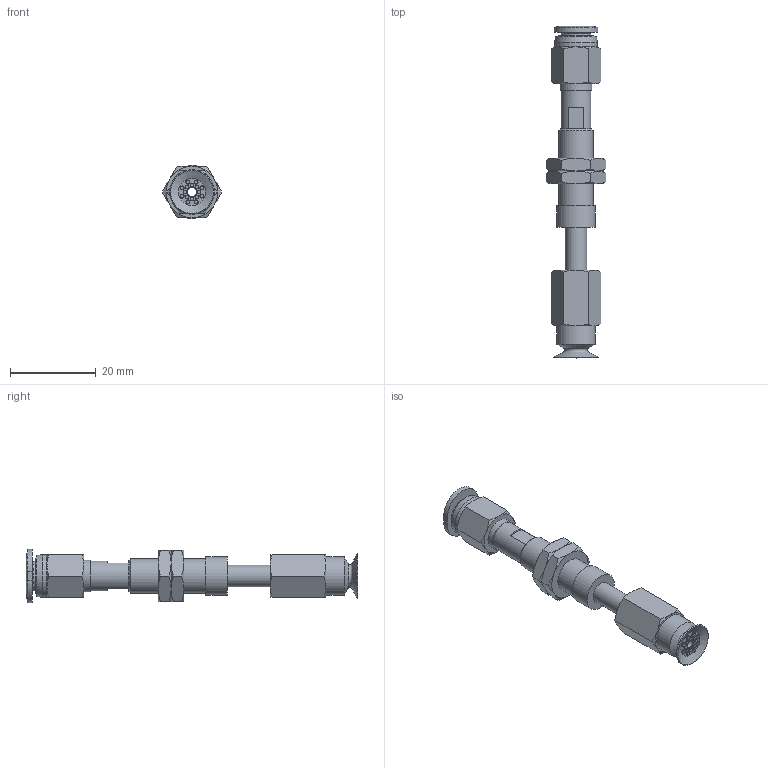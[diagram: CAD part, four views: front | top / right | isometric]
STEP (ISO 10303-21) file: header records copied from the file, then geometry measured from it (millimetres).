
FILE_DESCRIPTION(('STEP AP203'),'1');
FILE_NAME('-O.stp','2025-08-26T08:31:10',(' '),(' '),'Spatial InterOp 3D',' ',' ');
FILE_SCHEMA(('CONFIG_CONTROL_DESIGN'));
Length unit declared in the file: millimetre
Products named in the file (7): BNABPATS-10A-10-※-O; ADAPTER; NAPATS-10A-10--M; NAPATS-10A-10--F; Nut-10A-S; PC-C_06-M5; BPAG-10A-※_3D
Assembly tree (7 placements, depth 2):
  BNABPATS-10A-10-※-O
    ADAPTER
    NAPATS-10A-10--M
    NAPATS-10A-10--F
    Nut-10A-S  x2
    PC-C_06-M5
    BPAG-10A-※_3D
Bounding box: 13.86 x 77.48 x 12.4 mm (x, y, z)
Volume: 3494.7 mm3; surface area: 5207.4 mm2
Topology: 6 solids, 9 shells, 196 faces, 385 edges, 235 vertices
Faces by surface type: plane 74, cone 62, cylinder 41, torus 12, bspline 4, revolution 3
Full cylindrical faces by diameter (mm): 0.9 x16, 2 x3, 4 x4, 4.134 x1, 5 x3, 6 x2, 7 x2, 7.188 x2, 7.4 x1, 8 x1, 8.2 x1, 9 x2, 10 x1
Entity records: 4796 total; most frequent: CARTESIAN_POINT 1278, DIRECTION 679, ORIENTED_EDGE 522, AXIS2_PLACEMENT_3D 318, EDGE_LOOP 278, EDGE_CURVE 263, VERTEX_POINT 197, FACE_OUTER_BOUND 163
